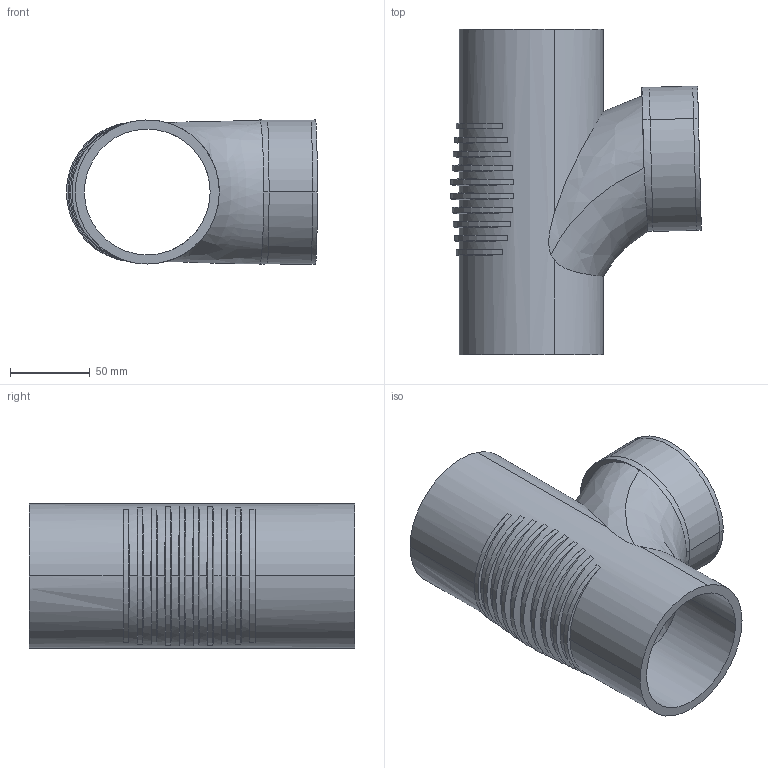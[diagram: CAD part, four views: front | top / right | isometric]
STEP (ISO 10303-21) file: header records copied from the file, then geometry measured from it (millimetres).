
FILE_DESCRIPTION(/* description */ (''),/* implementation_level */ '2;1');
FILE_NAME(/* name */ 'C:\Planerdaten\Export PLA\308.089.14.1\stp\308089.stp',/* time_stamp */ '2020-01-24T07:32:40+01:00',/* author */ ('JANAN'),/* organization */ (''),/* preprocessor_version */ 'ST-DEVELOPER v16.13',/* originating_system */ 'Autodesk Inventor 2018',/* authorisation */ '');
FILE_SCHEMA (('AUTOMOTIVE_DESIGN { 1 0 10303 214 3 1 1 }'));
Length unit declared in the file: millimetre
Products named in the file (1): Bogenabzweig PE-S2 88.5G d90/90
Bounding box: 157.17 x 204 x 90.37 mm (x, y, z)
Volume: 406876.7 mm3; surface area: 147756.6 mm2
Topology: 1 solids, 1 shells, 77 faces, 218 edges, 142 vertices
Faces by surface type: bspline 27, cylinder 24, cone 20, plane 5, torus 1
Entity records: 11489 total; most frequent: CARTESIAN_POINT 9568, ORIENTED_EDGE 436, DIRECTION 298, EDGE_CURVE 218, VERTEX_POINT 142, AXIS2_PLACEMENT_3D 117, B_SPLINE_CURVE_WITH_KNOTS 88, EDGE_LOOP 80
